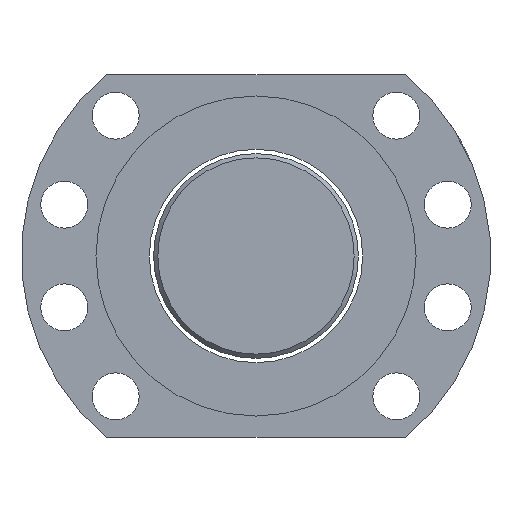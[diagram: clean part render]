
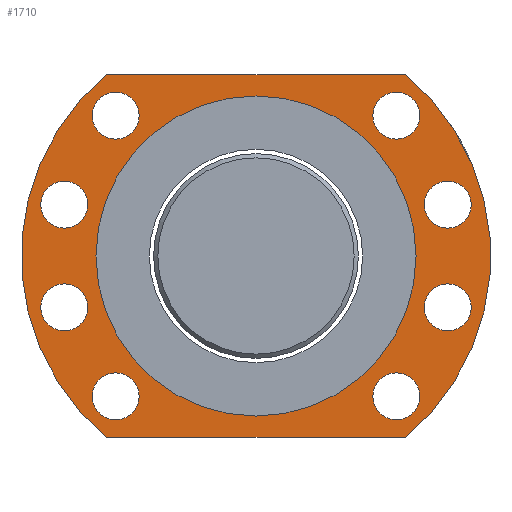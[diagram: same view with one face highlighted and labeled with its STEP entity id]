
A CAD part, left-side view. The second image highlights one B-rep face of the part: STEP entity #1710.
In plain terms, the highlighted planar face has unit normal (-1, 0, 0).
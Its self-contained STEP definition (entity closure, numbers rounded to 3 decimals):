
#29 = DIRECTION ( 'NONE',  ( 1., 0., 0. ) ) ;
#32 = FACE_OUTER_BOUND ( 'NONE', #657, .T. ) ;
#41 = DIRECTION ( 'NONE',  ( 0., 0., -1. ) ) ;
#45 = CIRCLE ( 'NONE', #1928, 5.5 ) ;
#52 = FACE_BOUND ( 'NONE', #859, .T. ) ;
#54 = CARTESIAN_POINT ( 'NONE',  ( -711.183, -183.148, -90.633 ) ) ;
#64 = CARTESIAN_POINT ( 'NONE',  ( -711.183, -181.118, -15.253 ) ) ;
#108 = CARTESIAN_POINT ( 'NONE',  ( -711.183, -193.153, -60.168 ) ) ;
#124 = VERTEX_POINT ( 'NONE', #1010 ) ;
#148 = EDGE_CURVE ( 'NONE', #1461, #1461, #45, .T. ) ;
#171 = DIRECTION ( 'NONE',  ( 0., 0., 1. ) ) ;
#186 = AXIS2_PLACEMENT_3D ( 'NONE', #2705, #893, #41 ) ;
#232 = CARTESIAN_POINT ( 'NONE',  ( -711.183, -113.327, -90.633 ) ) ;
#234 = CIRCLE ( 'NONE', #2788, 5.5 ) ;
#248 = EDGE_LOOP ( 'NONE', ( #1597 ) ) ;
#265 = DIRECTION ( 'NONE',  ( 0., 0., 1. ) ) ;
#291 = FACE_BOUND ( 'NONE', #1124, .T. ) ;
#320 = AXIS2_PLACEMENT_3D ( 'NONE', #108, #1237, #2778 ) ;
#322 = DIRECTION ( 'NONE',  ( 0., 1., 0. ) ) ;
#348 = CARTESIAN_POINT ( 'NONE',  ( -711.183, -193.153, -30.598 ) ) ;
#386 = DIRECTION ( 'NONE',  ( 0., 0., 1. ) ) ;
#392 = CARTESIAN_POINT ( 'NONE',  ( -711.183, -181.118, -9.753 ) ) ;
#429 = EDGE_CURVE ( 'NONE', #1395, #1395, #234, .T. ) ;
#455 = VERTEX_POINT ( 'NONE', #841 ) ;
#478 = FACE_BOUND ( 'NONE', #1979, .T. ) ;
#497 = ORIENTED_EDGE ( 'NONE', *, *, #2698, .T. ) ;
#504 = AXIS2_PLACEMENT_3D ( 'NONE', #2667, #2879, #887 ) ;
#616 = EDGE_CURVE ( 'NONE', #709, #2310, #1585, .T. ) ;
#626 = DIRECTION ( 'NONE',  ( -1., 0., 0. ) ) ;
#642 = VERTEX_POINT ( 'NONE', #2487 ) ;
#657 = EDGE_LOOP ( 'NONE', ( #2912, #902, #497, #1085 ) ) ;
#686 = ORIENTED_EDGE ( 'NONE', *, *, #751, .T. ) ;
#704 = AXIS2_PLACEMENT_3D ( 'NONE', #949, #1155, #2101 ) ;
#709 = VERTEX_POINT ( 'NONE', #908 ) ;
#710 = VECTOR ( 'NONE', #1787, 1000. ) ;
#718 = FACE_BOUND ( 'NONE', #1813, .T. ) ;
#751 = EDGE_CURVE ( 'NONE', #1852, #1852, #2496, .T. ) ;
#774 = CARTESIAN_POINT ( 'NONE',  ( -711.183, -148.237, -85.633 ) ) ;
#787 = VERTEX_POINT ( 'NONE', #1683 ) ;
#828 = DIRECTION ( 'NONE',  ( -1., 0., 0. ) ) ;
#841 = CARTESIAN_POINT ( 'NONE',  ( -711.183, -113.327, -5.633 ) ) ;
#859 = EDGE_LOOP ( 'NONE', ( #956 ) ) ;
#869 = CIRCLE ( 'NONE', #2893, 5.5 ) ;
#887 = DIRECTION ( 'NONE',  ( 0., 0., 1. ) ) ;
#893 = DIRECTION ( 'NONE',  ( -1., 0., 0. ) ) ;
#902 = ORIENTED_EDGE ( 'NONE', *, *, #616, .T. ) ;
#907 = EDGE_CURVE ( 'NONE', #1230, #1230, #2205, .T. ) ;
#908 = CARTESIAN_POINT ( 'NONE',  ( -711.183, -113.327, -90.633 ) ) ;
#931 = DIRECTION ( 'NONE',  ( 0., 0., 1. ) ) ;
#949 = CARTESIAN_POINT ( 'NONE',  ( -711.183, -148.237, -48.133 ) ) ;
#956 = ORIENTED_EDGE ( 'NONE', *, *, #429, .F. ) ;
#977 = CARTESIAN_POINT ( 'NONE',  ( -711.183, -115.357, -9.753 ) ) ;
#1010 = CARTESIAN_POINT ( 'NONE',  ( -711.183, -181.118, -75.514 ) ) ;
#1079 = CIRCLE ( 'NONE', #2729, 5.5 ) ;
#1085 = ORIENTED_EDGE ( 'NONE', *, *, #2805, .T. ) ;
#1124 = EDGE_LOOP ( 'NONE', ( #1213 ) ) ;
#1126 = DIRECTION ( 'NONE',  ( -1., 0., 0. ) ) ;
#1140 = ORIENTED_EDGE ( 'NONE', *, *, #2159, .F. ) ;
#1155 = DIRECTION ( 'NONE',  ( -1., 0., 0. ) ) ;
#1158 = PLANE ( 'NONE',  #1439 ) ;
#1161 = EDGE_LOOP ( 'NONE', ( #2225 ) ) ;
#1212 = VECTOR ( 'NONE', #322, 1000. ) ;
#1213 = ORIENTED_EDGE ( 'NONE', *, *, #1249, .T. ) ;
#1229 = EDGE_CURVE ( 'NONE', #455, #709, #2867, .T. ) ;
#1230 = VERTEX_POINT ( 'NONE', #774 ) ;
#1237 = DIRECTION ( 'NONE',  ( 1., 0., 0. ) ) ;
#1249 = EDGE_CURVE ( 'NONE', #124, #124, #1079, .T. ) ;
#1373 = FACE_BOUND ( 'NONE', #2044, .T. ) ;
#1381 = CARTESIAN_POINT ( 'NONE',  ( -711.183, -193.153, -36.098 ) ) ;
#1393 = ORIENTED_EDGE ( 'NONE', *, *, #2872, .T. ) ;
#1395 = VERTEX_POINT ( 'NONE', #977 ) ;
#1400 = DIRECTION ( 'NONE',  ( -1., 0., 0. ) ) ;
#1411 = ORIENTED_EDGE ( 'NONE', *, *, #2400, .T. ) ;
#1439 = AXIS2_PLACEMENT_3D ( 'NONE', #2271, #1847, #2514 ) ;
#1461 = VERTEX_POINT ( 'NONE', #2075 ) ;
#1573 = CIRCLE ( 'NONE', #2341, 5.5 ) ;
#1585 = LINE ( 'NONE', #232, #710 ) ;
#1597 = ORIENTED_EDGE ( 'NONE', *, *, #148, .F. ) ;
#1627 = FACE_BOUND ( 'NONE', #248, .T. ) ;
#1656 = DIRECTION ( 'NONE',  ( 0., 0., -1. ) ) ;
#1681 = CIRCLE ( 'NONE', #2103, 55. ) ;
#1683 = CARTESIAN_POINT ( 'NONE',  ( -711.183, -103.322, -54.668 ) ) ;
#1710 = ADVANCED_FACE ( 'NONE', ( #478, #291, #2051, #1627, #2733, #32, #1828, #1373, #52, #718 ), #1158, .T. ) ;
#1764 = CARTESIAN_POINT ( 'NONE',  ( -711.183, -115.357, -81.014 ) ) ;
#1787 = DIRECTION ( 'NONE',  ( 0., -1., 0. ) ) ;
#1796 = EDGE_LOOP ( 'NONE', ( #2682 ) ) ;
#1813 = EDGE_LOOP ( 'NONE', ( #1393 ) ) ;
#1828 = FACE_BOUND ( 'NONE', #1161, .T. ) ;
#1847 = DIRECTION ( 'NONE',  ( -1., 0., 0. ) ) ;
#1852 = VERTEX_POINT ( 'NONE', #348 ) ;
#1857 = CARTESIAN_POINT ( 'NONE',  ( -711.183, -148.237, -48.133 ) ) ;
#1913 = VERTEX_POINT ( 'NONE', #2112 ) ;
#1928 = AXIS2_PLACEMENT_3D ( 'NONE', #1989, #626, #171 ) ;
#1979 = EDGE_LOOP ( 'NONE', ( #686 ) ) ;
#1989 = CARTESIAN_POINT ( 'NONE',  ( -711.183, -103.322, -36.098 ) ) ;
#2042 = DIRECTION ( 'NONE',  ( 1., 0., 0. ) ) ;
#2044 = EDGE_LOOP ( 'NONE', ( #1411 ) ) ;
#2051 = FACE_BOUND ( 'NONE', #2110, .T. ) ;
#2064 = CARTESIAN_POINT ( 'NONE',  ( -711.183, -181.118, -81.014 ) ) ;
#2075 = CARTESIAN_POINT ( 'NONE',  ( -711.183, -103.322, -30.598 ) ) ;
#2101 = DIRECTION ( 'NONE',  ( 0., 0., -1. ) ) ;
#2103 = AXIS2_PLACEMENT_3D ( 'NONE', #1857, #1400, #1656 ) ;
#2110 = EDGE_LOOP ( 'NONE', ( #1140 ) ) ;
#2112 = CARTESIAN_POINT ( 'NONE',  ( -711.183, -115.357, -75.514 ) ) ;
#2133 = DIRECTION ( 'NONE',  ( 1., 0., 0. ) ) ;
#2159 = EDGE_CURVE ( 'NONE', #1913, #1913, #869, .T. ) ;
#2198 = VERTEX_POINT ( 'NONE', #392 ) ;
#2205 = CIRCLE ( 'NONE', #186, 37.5 ) ;
#2225 = ORIENTED_EDGE ( 'NONE', *, *, #907, .F. ) ;
#2233 = CIRCLE ( 'NONE', #504, 5.5 ) ;
#2268 = EDGE_CURVE ( 'NONE', #787, #787, #2233, .T. ) ;
#2271 = CARTESIAN_POINT ( 'NONE',  ( -711.183, -148.237, -48.133 ) ) ;
#2310 = VERTEX_POINT ( 'NONE', #54 ) ;
#2341 = AXIS2_PLACEMENT_3D ( 'NONE', #64, #2133, #265 ) ;
#2355 = CARTESIAN_POINT ( 'NONE',  ( -711.183, -183.148, -5.633 ) ) ;
#2368 = AXIS2_PLACEMENT_3D ( 'NONE', #1381, #2042, #2674 ) ;
#2400 = EDGE_CURVE ( 'NONE', #2409, #2409, #2622, .T. ) ;
#2404 = CARTESIAN_POINT ( 'NONE',  ( -711.183, -115.357, -15.253 ) ) ;
#2409 = VERTEX_POINT ( 'NONE', #2852 ) ;
#2487 = CARTESIAN_POINT ( 'NONE',  ( -711.183, -183.148, -5.633 ) ) ;
#2496 = CIRCLE ( 'NONE', #2368, 5.5 ) ;
#2514 = DIRECTION ( 'NONE',  ( 0., 0., 1. ) ) ;
#2622 = CIRCLE ( 'NONE', #320, 5.5 ) ;
#2667 = CARTESIAN_POINT ( 'NONE',  ( -711.183, -103.322, -60.168 ) ) ;
#2674 = DIRECTION ( 'NONE',  ( 0., 0., 1. ) ) ;
#2682 = ORIENTED_EDGE ( 'NONE', *, *, #2268, .F. ) ;
#2698 = EDGE_CURVE ( 'NONE', #2310, #642, #1681, .T. ) ;
#2705 = CARTESIAN_POINT ( 'NONE',  ( -711.183, -148.237, -48.133 ) ) ;
#2729 = AXIS2_PLACEMENT_3D ( 'NONE', #2064, #29, #931 ) ;
#2733 = FACE_BOUND ( 'NONE', #1796, .T. ) ;
#2778 = DIRECTION ( 'NONE',  ( 0., 0., 1. ) ) ;
#2788 = AXIS2_PLACEMENT_3D ( 'NONE', #2404, #828, #386 ) ;
#2805 = EDGE_CURVE ( 'NONE', #642, #455, #2812, .T. ) ;
#2812 = LINE ( 'NONE', #2355, #1212 ) ;
#2852 = CARTESIAN_POINT ( 'NONE',  ( -711.183, -193.153, -54.668 ) ) ;
#2867 = CIRCLE ( 'NONE', #704, 55. ) ;
#2872 = EDGE_CURVE ( 'NONE', #2198, #2198, #1573, .T. ) ;
#2879 = DIRECTION ( 'NONE',  ( -1., 0., 0. ) ) ;
#2893 = AXIS2_PLACEMENT_3D ( 'NONE', #1764, #1126, #2921 ) ;
#2912 = ORIENTED_EDGE ( 'NONE', *, *, #1229, .T. ) ;
#2921 = DIRECTION ( 'NONE',  ( 0., 0., 1. ) ) ;
